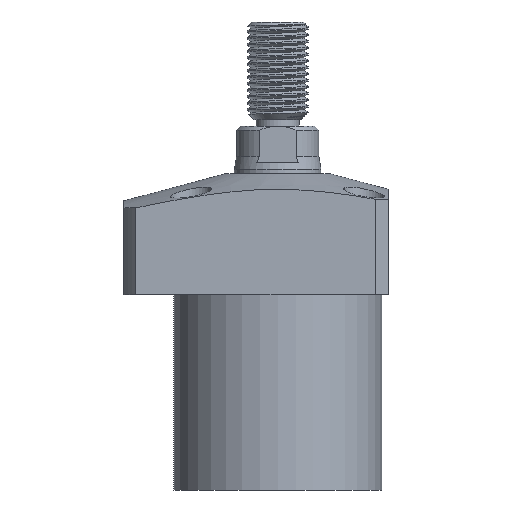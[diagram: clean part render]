
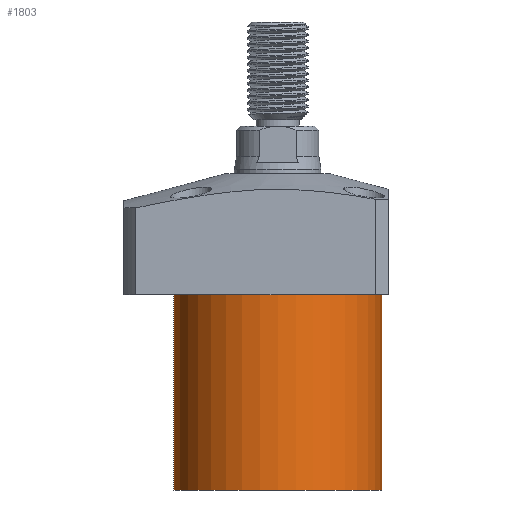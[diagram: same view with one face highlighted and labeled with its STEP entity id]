
A CAD part, front view. The second image highlights one B-rep face of the part: STEP entity #1803.
In plain terms, the highlighted cylindrical face has radius 24 mm (diameter 48 mm), a partial arc.
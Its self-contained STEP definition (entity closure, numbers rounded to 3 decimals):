
#207 = CARTESIAN_POINT ( 'NONE',  ( 0., 0., -59. ) ) ;
#493 = LINE ( 'NONE', #1182, #3510 ) ;
#571 = AXIS2_PLACEMENT_3D ( 'NONE', #1245, #1697, #2493 ) ;
#767 = DIRECTION ( 'NONE',  ( 0., 0., 1. ) ) ;
#827 = ORIENTED_EDGE ( 'NONE', *, *, #2482, .T. ) ;
#1182 = CARTESIAN_POINT ( 'NONE',  ( -24., 0., -59. ) ) ;
#1245 = CARTESIAN_POINT ( 'NONE',  ( 0., 0., -59. ) ) ;
#1246 = EDGE_CURVE ( 'NONE', #4580, #3170, #4968, .T. ) ;
#1570 = EDGE_CURVE ( 'NONE', #1590, #2412, #5161, .T. ) ;
#1580 = CARTESIAN_POINT ( 'NONE',  ( 24., 0., -14. ) ) ;
#1590 = VERTEX_POINT ( 'NONE', #2949 ) ;
#1683 = ORIENTED_EDGE ( 'NONE', *, *, #3153, .F. ) ;
#1697 = DIRECTION ( 'NONE',  ( 0., 0., 1. ) ) ;
#1803 = ADVANCED_FACE ( 'NONE', ( #2324 ), #5219, .T. ) ;
#1991 = DIRECTION ( 'NONE',  ( 0., 0., 1. ) ) ;
#2324 = FACE_OUTER_BOUND ( 'NONE', #4041, .T. ) ;
#2371 = ORIENTED_EDGE ( 'NONE', *, *, #1246, .T. ) ;
#2412 = VERTEX_POINT ( 'NONE', #4233 ) ;
#2482 = EDGE_CURVE ( 'NONE', #1590, #4580, #3693, .T. ) ;
#2493 = DIRECTION ( 'NONE',  ( 1., 0., 0. ) ) ;
#2949 = CARTESIAN_POINT ( 'NONE',  ( 24., 0., -59. ) ) ;
#3023 = DIRECTION ( 'NONE',  ( 0., 0., -1. ) ) ;
#3153 = EDGE_CURVE ( 'NONE', #2412, #3170, #493, .T. ) ;
#3170 = VERTEX_POINT ( 'NONE', #4018 ) ;
#3510 = VECTOR ( 'NONE', #767, 1000. ) ;
#3685 = CARTESIAN_POINT ( 'NONE',  ( 0., 0., -14. ) ) ;
#3693 = LINE ( 'NONE', #4359, #5157 ) ;
#4018 = CARTESIAN_POINT ( 'NONE',  ( -24., 0., -14. ) ) ;
#4041 = EDGE_LOOP ( 'NONE', ( #1683, #4931, #827, #2371 ) ) ;
#4233 = CARTESIAN_POINT ( 'NONE',  ( -24., 0., -59. ) ) ;
#4359 = CARTESIAN_POINT ( 'NONE',  ( 24., 0., -59. ) ) ;
#4405 = DIRECTION ( 'NONE',  ( 0., 0., -1. ) ) ;
#4423 = DIRECTION ( 'NONE',  ( 1., 0., 0. ) ) ;
#4580 = VERTEX_POINT ( 'NONE', #1580 ) ;
#4719 = AXIS2_PLACEMENT_3D ( 'NONE', #207, #3023, #4980 ) ;
#4931 = ORIENTED_EDGE ( 'NONE', *, *, #1570, .F. ) ;
#4968 = CIRCLE ( 'NONE', #5178, 24. ) ;
#4980 = DIRECTION ( 'NONE',  ( -1., 0., 0. ) ) ;
#5157 = VECTOR ( 'NONE', #1991, 1000. ) ;
#5161 = CIRCLE ( 'NONE', #4719, 24. ) ;
#5178 = AXIS2_PLACEMENT_3D ( 'NONE', #3685, #4405, #4423 ) ;
#5219 = CYLINDRICAL_SURFACE ( 'NONE', #571, 24. ) ;
